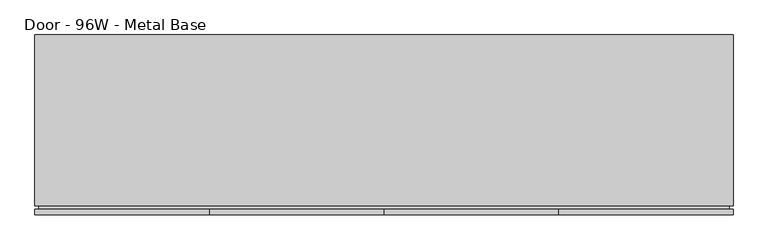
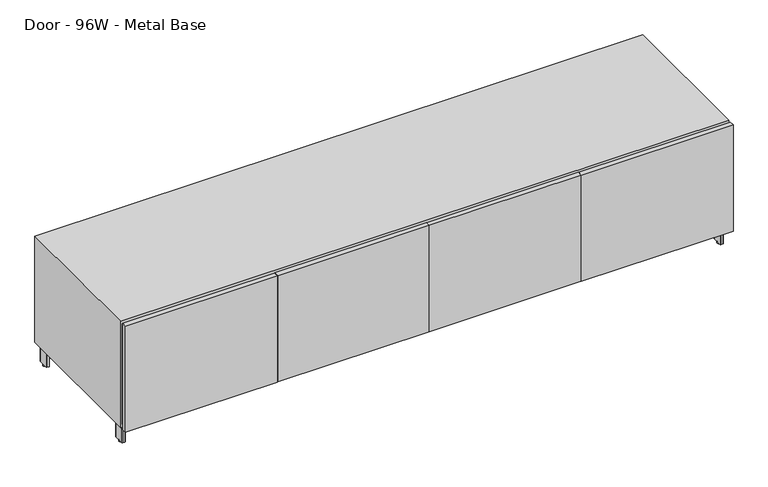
"""IFC4 building model written with IfcOpenShell, lengths in millimetres: furniture geometry, Steelcase Coalesse - Exponents - Storage - Credenza - 21H : Door - 96W - Metal Base."""

import ifcopenshell
import ifcopenshell.guid

model = None  # the IFC model being written
_history = None  # IfcOwnerHistory: only IFC2X3 demands one
_inside = {}  # id of a spatial element -> (the spatial element, [elements in it])
_under = {}  # id of a project, library or spatial element -> (it, [spatial elements below it])
_declared = {}  # id of a project -> (the project, [libraries it declares])
_typed = {}  # id of a type object -> (the type object, [elements of that type])
_made_of = {}  # id of a material, layer set ... -> (it, [elements and type objects made of it])


def new_model(schema):
    """Start an empty IFC model of exactly this schema.

    Asked for "IFC4X3", IfcOpenShell would pick the latest addendum, in which some entities
    have other attributes; the version numbers below select the first issue.
    IFC2X3 requires an IfcOwnerHistory on every rooted entity: one is made here for all.
    """
    global model, _history
    if schema == "IFC4X3":
        model = ifcopenshell.file(schema_version=(4, 3, 0, 0))
    else:
        model = ifcopenshell.file(schema=schema)
    _inside.clear()
    _under.clear()
    _declared.clear()
    _typed.clear()
    _made_of.clear()
    _history = None
    if model.schema == "IFC2X3":
        org = make("IfcOrganization", Name="unknown")
        user = make(
            "IfcPersonAndOrganization",
            ThePerson=make("IfcPerson", FamilyName="unknown"),
            TheOrganization=org,
        )
        app = make(
            "IfcApplication",
            ApplicationDeveloper=org,
            Version="unknown",
            ApplicationFullName="unknown",
            ApplicationIdentifier="unknown",
        )
        _history = make(
            "IfcOwnerHistory",
            OwningUser=user,
            OwningApplication=app,
            ChangeAction="ADDED",
            CreationDate=0,
        )
    return model


def make(cls, **values):
    """One entity of the class cls with the attributes given. An attribute that is None is left unset."""
    return model.create_entity(
        cls, **{name: value for name, value in values.items() if value is not None}
    )


def rooted(cls, **values):
    """An entity with a GlobalId (a new one), such as an element, a storey or a relation."""
    return make(cls, GlobalId=ifcopenshell.guid.new(), OwnerHistory=_history, **values)


def si_unit(unit_type, name, prefix=None):
    """IfcSIUnit, for example si_unit("LENGTHUNIT", "METRE", prefix="MILLI")."""
    return make("IfcSIUnit", UnitType=unit_type, Prefix=prefix, Name=name)


def assignment(units):
    """IfcUnitAssignment: the units of a project."""
    return None if units is None else make("IfcUnitAssignment", Units=units)


def point(xyz):
    """IfcCartesianPoint."""
    return None if xyz is None else make("IfcCartesianPoint", Coordinates=xyz)


def direction(xyz):
    """IfcDirection."""
    return None if xyz is None else make("IfcDirection", DirectionRatios=xyz)


def frame(location, z_axis=None, x_axis=None):
    """IfcAxis2Placement3D, a coordinate frame: its origin and axes. An axis left out is left unset."""
    return make(
        "IfcAxis2Placement3D",
        Location=point(location),
        Axis=direction(z_axis),
        RefDirection=direction(x_axis),
    )


def frame_2d(location, x_axis=None):
    """IfcAxis2Placement2D, a coordinate frame in the plane: its origin and x axis."""
    return make(
        "IfcAxis2Placement2D", Location=point(location), RefDirection=direction(x_axis)
    )


def origin():
    """The frame at (0, 0, 0) with its axes left unset."""
    return frame((0.0, 0.0, 0.0))


def origin_with_axes():
    """The frame at (0, 0, 0) with the z axis (0, 0, 1) and the x axis (1, 0, 0) written out."""
    return frame((0.0, 0.0, 0.0), z_axis=(0.0, 0.0, 1.0), x_axis=(1.0, 0.0, 0.0))


def place(relative_to, where):
    """IfcLocalPlacement: puts the frame where relative to a parent placement (None: the world)."""
    return make(
        "IfcLocalPlacement", PlacementRelTo=relative_to, RelativePlacement=where
    )


def context(
    kind, dimensions, precision=None, world=None, true_north=None, identifier=None
):
    """IfcGeometricRepresentationContext, for example the 3D "Model" context."""
    return make(
        "IfcGeometricRepresentationContext",
        ContextIdentifier=identifier,
        ContextType=kind,
        CoordinateSpaceDimension=dimensions,
        Precision=precision,
        WorldCoordinateSystem=world,
        TrueNorth=true_north,
    )


def project(units=None, contexts=None):
    """IfcProject with its units and contexts."""
    return rooted(
        "IfcProject",
        Name="project",
        RepresentationContexts=contexts,
        UnitsInContext=assignment(units),
    )


def spatial(cls, under=None, at=None, **own):
    """A site, building, storey or space (cls), placed at a placement, below another one or the project."""
    s = rooted(cls, ObjectPlacement=at, **own)
    if under is not None:
        _under.setdefault(under.id(), (under, []))[1].append(s)
    return s


def polyline(points):
    """IfcPolyline through the points."""
    return make("IfcPolyline", Points=[point(p) for p in points])


def circle_curve(where, radius):
    """IfcCircle in the frame where."""
    return make("IfcCircle", Position=where, Radius=radius)


def trimmed(basis, trim1, trim2, sense, master):
    """IfcTrimmedCurve: the piece of a basis curve between two trims."""
    return make(
        "IfcTrimmedCurve",
        BasisCurve=basis,
        Trim1=trim1,
        Trim2=trim2,
        SenseAgreement=sense,
        MasterRepresentation=master,
    )


def segment(curve, same_sense, transition):
    """IfcCompositeCurveSegment."""
    return make(
        "IfcCompositeCurveSegment",
        Transition=transition,
        SameSense=same_sense,
        ParentCurve=curve,
    )


def composite_curve(segments, self_intersect=None):
    """IfcCompositeCurve: segments joined end to end."""
    return make("IfcCompositeCurve", Segments=segments, SelfIntersect=self_intersect)


def outline(outer, holes=None, kind="AREA"):
    """IfcArbitraryClosedProfileDef: a profile drawn as a closed curve; with holes, ...WithVoids."""
    if holes is None:
        return make("IfcArbitraryClosedProfileDef", ProfileType=kind, OuterCurve=outer)
    return make(
        "IfcArbitraryProfileDefWithVoids",
        ProfileType=kind,
        OuterCurve=outer,
        InnerCurves=holes,
    )


def extrude(swept, where, along, depth):
    """IfcExtrudedAreaSolid: the profile swept, set in the frame where, extruded along a direction by depth."""
    return make(
        "IfcExtrudedAreaSolid",
        SweptArea=swept,
        Position=where,
        ExtrudedDirection=direction(along),
        Depth=depth,
    )


def faces_of(points, faces, orient=None, outer=None):
    """IfcFace entities. A face is a list of loops; a loop is a list of indices into points, from 0.

    orient and outer hold one flag for each loop. By default every Orientation is true, the
    first loop of a face is its IfcFaceOuterBound and the others are IfcFaceBound.
    """
    made = []
    for i, loops in enumerate(faces):
        bounds = []
        for j, loop in enumerate(loops):
            is_outer = j == 0 if outer is None else outer[i][j]
            bounds.append(
                make(
                    "IfcFaceOuterBound" if is_outer else "IfcFaceBound",
                    Bound=make("IfcPolyLoop", Polygon=[points[k] for k in loop]),
                    Orientation=True if orient is None else orient[i][j],
                )
            )
        made.append(make("IfcFace", Bounds=bounds))
    return made


def faceted_brep(points, faces, orient=None, outer=None, voids=None):
    """IfcFacetedBrep: a solid bounded by flat faces; with voids (closed shells), ...WithVoids."""
    shared = [point(p) for p in points]
    hull = make("IfcClosedShell", CfsFaces=faces_of(shared, faces, orient, outer))
    if voids is None:
        return make("IfcFacetedBrep", Outer=hull)
    return make(
        "IfcFacetedBrepWithVoids",
        Outer=hull,
        Voids=[
            make(cls, CfsFaces=faces_of(shared, fs, o, b)) for cls, fs, o, b in voids
        ],
    )


def shape(context_of_items, identifier, shape_type, items):
    """IfcShapeRepresentation: the items that make up one representation, for example the "Body"."""
    return make(
        "IfcShapeRepresentation",
        ContextOfItems=context_of_items,
        RepresentationIdentifier=identifier,
        RepresentationType=shape_type,
        Items=items,
    )


def source(mapping_origin, context_of_items, identifier, shape_type, items):
    """IfcRepresentationMap: a shape defined once, which mapped items show again and again."""
    return make(
        "IfcRepresentationMap",
        MappingOrigin=mapping_origin,
        MappedRepresentation=shape(context_of_items, identifier, shape_type, items),
    )


def transform(
    local_origin,
    x_axis=None,
    y_axis=None,
    z_axis=None,
    scale=None,
    scale2=None,
    scale3=None,
    uniform=True,
):
    """IfcCartesianTransformationOperator3D, or its non-uniform kind. x_axis, y_axis, z_axis: its Axis1, 2, 3."""
    if uniform:
        return make(
            "IfcCartesianTransformationOperator3D",
            Axis1=direction(x_axis),
            Axis2=direction(y_axis),
            LocalOrigin=point(local_origin),
            Scale=scale,
            Axis3=direction(z_axis),
        )
    return make(
        "IfcCartesianTransformationOperator3DnonUniform",
        Axis1=direction(x_axis),
        Axis2=direction(y_axis),
        LocalOrigin=point(local_origin),
        Scale=scale,
        Axis3=direction(z_axis),
        Scale2=scale2,
        Scale3=scale3,
    )


def mapped(mapping_source, mapping_target):
    """IfcMappedItem: shows the shape of a source again, moved by a transform."""
    return make(
        "IfcMappedItem", MappingSource=mapping_source, MappingTarget=mapping_target
    )


def made_of(thing, what):
    """Note that an element or type object is made of a material, layer set ...; save() writes the relation."""
    if what is not None:
        _made_of.setdefault(what.id(), (what, []))[1].append(thing)
    return thing


def element(
    cls,
    number,
    at=None,
    inside=None,
    cuts=None,
    type_object=None,
    material=None,
    context=None,
    identifier="Body",
    shape_type=None,
    held_by="IfcProductDefinitionShape",
    body=None,
    shapes=None,
    **own,
):
    """One element of the class cls, such as IfcWall. Its Tag is "e" and its number.

    at: its placement. inside: the storey or other place that contains it. cuts: it is an
    opening in that element (IfcRelVoidsElement). A single representation is given by context,
    identifier, shape_type and body (its items); several are given by shapes. held_by: the class
    of the entity that holds the representations. save() writes the other relations.
    """
    e = rooted(cls, Tag="e%d" % number, ObjectPlacement=at, **own)
    if body is not None:
        shapes = [shape(context, identifier, shape_type, body)]
    if shapes is not None:
        e.Representation = make(held_by, Representations=shapes)
    if inside is not None:
        _inside.setdefault(inside.id(), (inside, []))[1].append(e)
    if cuts is not None:
        rooted(
            "IfcRelVoidsElement", RelatingBuildingElement=cuts, RelatedOpeningElement=e
        )
    if type_object is not None:
        _typed.setdefault(type_object.id(), (type_object, []))[1].append(e)
    return made_of(e, material)


def aggregate(whole, parts):
    """IfcRelAggregates: a whole, such as a stair, and the parts it consists of."""
    return rooted("IfcRelAggregates", RelatingObject=whole, RelatedObjects=parts)


def save(model, path):
    """Write the relations noted so far, then the file.

    IfcRelAggregates (storeys below a building ...), IfcRelContainedInSpatialStructure (elements
    in a storey), IfcRelDefinesByType, IfcRelAssociatesMaterial and IfcRelDeclares: one each for
    every whole, place, type object, material and project.
    """
    for whole, parts in _under.values():
        aggregate(whole, parts)
    for where, things in _inside.values():
        rooted(
            "IfcRelContainedInSpatialStructure",
            RelatedElements=things,
            RelatingStructure=where,
        )
    for kind, things in _typed.values():
        rooted("IfcRelDefinesByType", RelatedObjects=things, RelatingType=kind)
    for what, things in _made_of.values():
        rooted("IfcRelAssociatesMaterial", RelatedObjects=things, RelatingMaterial=what)
    for by, libraries in _declared.values():
        rooted("IfcRelDeclares", RelatingContext=by, RelatedDefinitions=libraries)
    model.write(path)


def door_96w_metal_base_2c42405a(model_context):
    return source(origin(), model_context, "Body", "SolidModel", [
        faceted_brep([(6.35, 31.75, 520.7), (6.35, 31.75, 95.25), (6.35, 622.3, 95.25), (6.35, 622.3, 520.7), (2432.05, 622.3, 95.25), (2432.05, 622.3, 520.7), (2432.05, 31.75, 95.25), (2432.05, 31.75, 520.7), (0.0, 31.75, 82.55), (2438.4, 31.75, 82.55), (2438.4, 31.75, 533.4), (0.0, 31.75, 533.4), (2438.4, 628.65, 82.55), (2438.4, 628.65, 533.4), (0.0, 628.65, 82.55), (0.0, 628.65, 533.4)], [[[0, 1, 2, 3]], [[3, 2, 4, 5]], [[5, 4, 6, 7]], [[8, 9, 10, 11], [7, 6, 1, 0]], [[10, 9, 12, 13]], [[13, 12, 14, 15]], [[15, 14, 8, 11]], [[7, 0, 3, 5]], [[10, 13, 15, 11]], [[1, 6, 4, 2]], [[12, 9, 8, 14]]]),
        extrude(outline(composite_curve([segment(polyline([(2414.7506426, 615.95), (2423.922, 615.95)]), True, "CONTINUOUS"), segment(trimmed(circle_curve(frame_2d((2423.922, 614.172)), 1.778), [point((2423.922, 615.95))], [point((2425.7, 614.172))], False, "CARTESIAN"), True, "CONTINUOUS"), segment(polyline([(2425.7, 614.172), (2425.7, 572.9986)]), True, "CONTINUOUS"), segment(trimmed(circle_curve(frame_2d((2423.922, 572.9986)), 1.778), [point((2425.7, 572.9986))], [point((2423.922, 571.2206))], False, "CARTESIAN"), True, "CONTINUOUS"), segment(polyline([(2423.922, 571.2206), (2414.7948916, 571.2206)]), True, "CONTINUOUS"), segment(trimmed(circle_curve(frame_2d((2414.7948916, 573.0154916)), 1.7948916), [point((2414.7948916, 571.2206))], [point((2413.0, 573.0154916))], False, "CARTESIAN"), True, "CONTINUOUS"), segment(polyline([(2413.0, 573.0154916), (2413.0, 614.1993574)]), True, "CONTINUOUS"), segment(trimmed(circle_curve(frame_2d((2414.7506426, 614.1993574)), 1.7506426), [point((2413.0, 614.1993574))], [point((2414.7506426, 615.95))], False, "CARTESIAN"), True, "CONTINUOUS")], self_intersect=False)), frame((0.0, 0.0, 6.35), z_axis=(0.0, 0.0, 1.0), x_axis=(1.0, 0.0, 0.0)), (0.0, 0.0, 1.0), 73.4568),
        extrude(outline(composite_curve([segment(polyline([(2414.7506426, 88.9), (2423.922, 88.9)]), True, "CONTINUOUS"), segment(trimmed(circle_curve(frame_2d((2423.922, 87.122)), 1.778), [point((2423.922, 88.9))], [point((2425.7, 87.122))], False, "CARTESIAN"), True, "CONTINUOUS"), segment(polyline([(2425.7, 87.122), (2425.7, 45.9486)]), True, "CONTINUOUS"), segment(trimmed(circle_curve(frame_2d((2423.922, 45.9486)), 1.778), [point((2425.7, 45.9486))], [point((2423.922, 44.1706))], False, "CARTESIAN"), True, "CONTINUOUS"), segment(polyline([(2423.922, 44.1706), (2414.7948916, 44.1706)]), True, "CONTINUOUS"), segment(trimmed(circle_curve(frame_2d((2414.7948916, 45.9654916)), 1.7948916), [point((2414.7948916, 44.1706))], [point((2413.0, 45.9654916))], False, "CARTESIAN"), True, "CONTINUOUS"), segment(polyline([(2413.0, 45.9654916), (2413.0, 87.1493574)]), True, "CONTINUOUS"), segment(trimmed(circle_curve(frame_2d((2414.7506426, 87.1493574)), 1.7506426), [point((2413.0, 87.1493574))], [point((2414.7506426, 88.9))], False, "CARTESIAN"), True, "CONTINUOUS")], self_intersect=False)), frame((0.0, 0.0, 6.35), z_axis=(0.0, 0.0, 1.0), x_axis=(1.0, 0.0, 0.0)), (0.0, 0.0, 1.0), 73.4568),
        extrude(outline(composite_curve([segment(trimmed(circle_curve(frame_2d((2419.35, 593.5667033)), 6.35), [point((2419.35, 599.9167033))], [point((2419.35, 587.2167033))], False, "CARTESIAN"), True, "CONTINUOUS"), segment(trimmed(circle_curve(frame_2d((2419.35, 593.5667033)), 6.35), [point((2419.35, 587.2167033))], [point((2419.35, 599.9167033))], False, "CARTESIAN"), True, "CONTINUOUS")], self_intersect=False)), origin_with_axes(), (0.0, 0.0, 1.0), 6.35),
        extrude(outline(composite_curve([segment(trimmed(circle_curve(frame_2d((2419.35, 66.7867854)), 6.35), [point((2419.35, 73.1367854))], [point((2419.35, 60.4367854))], False, "CARTESIAN"), True, "CONTINUOUS"), segment(trimmed(circle_curve(frame_2d((2419.35, 66.7867854)), 6.35), [point((2419.35, 60.4367854))], [point((2419.35, 73.1367854))], False, "CARTESIAN"), True, "CONTINUOUS")], self_intersect=False)), origin_with_axes(), (0.0, 0.0, 1.0), 6.35),
        extrude(outline(polyline([(1879.6, 379.0696809), (1879.6, 277.4696809), (1778.0, 277.4696809), (1778.0, 379.0696809), (1879.6, 379.0696809)])), frame((0.0, 0.0, 79.8068), z_axis=(0.0, 0.0, 1.0), x_axis=(1.0, 0.0, 0.0)), (0.0, 0.0, 1.0), 2.7432),
        extrude(outline(polyline([(520.7, 2425.7), (520.7, 12.7), (95.25, 12.7), (95.25, 2425.7), (520.7, 2425.7)]), holes=[polyline([(514.35, 2419.35), (101.6, 2419.35), (101.6, 19.05), (514.35, 19.05), (514.35, 2419.35)])]), frame((0.0, 19.05, 0.0), z_axis=(0.0, 1.0, 0.0), x_axis=(0.0, 0.0, 1.0)), (0.0, 0.0, 1.0), 31.75),
        extrude(outline(composite_curve([segment(polyline([(1821.0256426, 349.25), (1836.547, 349.25)]), True, "CONTINUOUS"), segment(trimmed(circle_curve(frame_2d((1836.547, 347.472)), 1.778), [point((1836.547, 349.25))], [point((1838.325, 347.472))], False, "CARTESIAN"), True, "CONTINUOUS"), segment(polyline([(1838.325, 347.472), (1838.325, 312.928)]), True, "CONTINUOUS"), segment(trimmed(circle_curve(frame_2d((1836.547, 312.928)), 1.778), [point((1838.325, 312.928))], [point((1836.547, 311.15))], False, "CARTESIAN"), True, "CONTINUOUS"), segment(polyline([(1836.547, 311.15), (1821.0698916, 311.15)]), True, "CONTINUOUS"), segment(trimmed(circle_curve(frame_2d((1821.0698916, 312.9448916)), 1.7948916), [point((1821.0698916, 311.15))], [point((1819.275, 312.9448916))], False, "CARTESIAN"), True, "CONTINUOUS"), segment(polyline([(1819.275, 312.9448916), (1819.275, 347.4993574)]), True, "CONTINUOUS"), segment(trimmed(circle_curve(frame_2d((1821.0256426, 347.4993574)), 1.7506426), [point((1819.275, 347.4993574))], [point((1821.0256426, 349.25))], False, "CARTESIAN"), True, "CONTINUOUS")], self_intersect=False)), frame((0.0, 0.0, 6.35), z_axis=(0.0, 0.0, 1.0), x_axis=(1.0, 0.0, 0.0)), (0.0, 0.0, 1.0), 73.4568),
        extrude(outline(polyline([(1830.0800308, 345.280854), (2413.0, 598.591626), (2413.0, 577.8206777), (1843.1741031, 330.2), (2413.0, 82.5793223), (2413.0, 61.808374), (1830.377267, 314.9899805), (1836.8101738, 329.7934165), (1830.0800308, 345.280854)])), frame((0.0, 0.0, 34.925), z_axis=(0.0, 0.0, 1.0), x_axis=(1.0, 0.0, 0.0)), (0.0, 0.0, 1.0), 44.8818),
        extrude(outline(polyline([(2432.05, 520.7), (2330.45, 520.7), (2330.45, 622.3), (2432.05, 622.3), (2432.05, 520.7)])), frame((0.0, 0.0, 79.8068), z_axis=(0.0, 0.0, 1.0), x_axis=(1.0, 0.0, 0.0)), (0.0, 0.0, 1.0), 2.7432),
        extrude(outline(polyline([(2432.05, 139.7), (2432.05, 38.1), (2330.45, 38.1), (2330.45, 139.7), (2432.05, 139.7)])), frame((0.0, 0.0, 79.8068), z_axis=(0.0, 0.0, 1.0), x_axis=(1.0, 0.0, 0.0)), (0.0, 0.0, 1.0), 2.7432),
        extrude(outline(composite_curve([segment(trimmed(circle_curve(frame_2d((1828.6250692, 330.5590189)), 6.35), [point((1828.6250692, 336.9090189))], [point((1828.6250692, 324.2090189))], False, "CARTESIAN"), True, "CONTINUOUS"), segment(trimmed(circle_curve(frame_2d((1828.6250692, 330.5590189)), 6.35), [point((1828.6250692, 324.2090189))], [point((1828.6250692, 336.9090189))], False, "CARTESIAN"), True, "CONTINUOUS")], self_intersect=False)), origin_with_axes(), (0.0, 0.0, 1.0), 6.35),
        extrude(outline(composite_curve([segment(trimmed(circle_curve(frame_2d((1219.2, 330.5590189)), 6.35), [point((1219.2, 324.2090189))], [point((1219.2, 336.9090189))], False, "CARTESIAN"), True, "CONTINUOUS"), segment(trimmed(circle_curve(frame_2d((1219.2, 330.5590189)), 6.35), [point((1219.2, 336.9090189))], [point((1219.2, 324.2090189))], False, "CARTESIAN"), True, "CONTINUOUS")], self_intersect=False)), origin_with_axes(), (0.0, 0.0, 1.0), 6.35),
        extrude(outline(polyline([(1168.4, 379.0696809), (1270.0, 379.0696809), (1270.0, 277.4696809), (1168.4, 277.4696809), (1168.4, 379.0696809)])), frame((0.0, 0.0, 79.8068), z_axis=(0.0, 0.0, 1.0), x_axis=(1.0, 0.0, 0.0)), (0.0, 0.0, 1.0), 2.7432),
        extrude(outline(composite_curve([segment(trimmed(circle_curve(frame_2d((1226.9743574, 347.4993574)), 1.7506426), [point((1226.9743574, 349.25))], [point((1228.725, 347.4993574))], False, "CARTESIAN"), True, "CONTINUOUS"), segment(polyline([(1228.725, 347.4993574), (1228.725, 312.9448916)]), True, "CONTINUOUS"), segment(trimmed(circle_curve(frame_2d((1226.9301084, 312.9448916)), 1.7948916), [point((1228.725, 312.9448916))], [point((1226.9301084, 311.15))], False, "CARTESIAN"), True, "CONTINUOUS"), segment(polyline([(1226.9301084, 311.15), (1211.453, 311.15)]), True, "CONTINUOUS"), segment(trimmed(circle_curve(frame_2d((1211.453, 312.928)), 1.778), [point((1211.453, 311.15))], [point((1209.675, 312.928))], False, "CARTESIAN"), True, "CONTINUOUS"), segment(polyline([(1209.675, 312.928), (1209.675, 347.472)]), True, "CONTINUOUS"), segment(trimmed(circle_curve(frame_2d((1211.453, 347.472)), 1.778), [point((1209.675, 347.472))], [point((1211.453, 349.25))], False, "CARTESIAN"), True, "CONTINUOUS"), segment(polyline([(1211.453, 349.25), (1226.9743574, 349.25)]), True, "CONTINUOUS")], self_intersect=False)), frame((0.0, 0.0, 6.35), z_axis=(0.0, 0.0, 1.0), x_axis=(1.0, 0.0, 0.0)), (0.0, 0.0, 1.0), 73.4568),
        extrude(outline(polyline([(2438.4, 19.05), (2438.4, 0.0), (1829.435, 0.0), (1829.435, 19.05), (2438.4, 19.05)])), frame((0.0, 0.0, 82.55), z_axis=(0.0, 0.0, 1.0), x_axis=(1.0, 0.0, 0.0)), (0.0, 0.0, 1.0), 450.85),
        extrude(outline(polyline([(1827.8348, 19.05), (1827.8348, 0.0), (1220.0128, 0.0), (1220.0128, 19.05), (1827.8348, 19.05)])), frame((0.0, 0.0, 82.55), z_axis=(0.0, 0.0, 1.0), x_axis=(1.0, 0.0, 0.0)), (0.0, 0.0, 1.0), 450.85),
        extrude(outline(composite_curve([segment(trimmed(circle_curve(frame_2d((23.6493574, 614.1993574)), 1.7506426), [point((23.6493574, 615.95))], [point((25.4, 614.1993574))], False, "CARTESIAN"), True, "CONTINUOUS"), segment(polyline([(25.4, 614.1993574), (25.4, 573.0154916)]), True, "CONTINUOUS"), segment(trimmed(circle_curve(frame_2d((23.6051084, 573.0154916)), 1.7948916), [point((25.4, 573.0154916))], [point((23.6051084, 571.2206))], False, "CARTESIAN"), True, "CONTINUOUS"), segment(polyline([(23.6051084, 571.2206), (14.478, 571.2206)]), True, "CONTINUOUS"), segment(trimmed(circle_curve(frame_2d((14.478, 572.9986)), 1.778), [point((14.478, 571.2206))], [point((12.7, 572.9986))], False, "CARTESIAN"), True, "CONTINUOUS"), segment(polyline([(12.7, 572.9986), (12.7, 614.172)]), True, "CONTINUOUS"), segment(trimmed(circle_curve(frame_2d((14.478, 614.172)), 1.778), [point((12.7, 614.172))], [point((14.478, 615.95))], False, "CARTESIAN"), True, "CONTINUOUS"), segment(polyline([(14.478, 615.95), (23.6493574, 615.95)]), True, "CONTINUOUS")], self_intersect=False)), frame((0.0, 0.0, 6.35), z_axis=(0.0, 0.0, 1.0), x_axis=(1.0, 0.0, 0.0)), (0.0, 0.0, 1.0), 73.4568),
        extrude(outline(composite_curve([segment(trimmed(circle_curve(frame_2d((23.6493574, 87.1493574)), 1.7506426), [point((23.6493574, 88.9))], [point((25.4, 87.1493574))], False, "CARTESIAN"), True, "CONTINUOUS"), segment(polyline([(25.4, 87.1493574), (25.4, 45.9654916)]), True, "CONTINUOUS"), segment(trimmed(circle_curve(frame_2d((23.6051084, 45.9654916)), 1.7948916), [point((25.4, 45.9654916))], [point((23.6051084, 44.1706))], False, "CARTESIAN"), True, "CONTINUOUS"), segment(polyline([(23.6051084, 44.1706), (14.478, 44.1706)]), True, "CONTINUOUS"), segment(trimmed(circle_curve(frame_2d((14.478, 45.9486)), 1.778), [point((14.478, 44.1706))], [point((12.7, 45.9486))], False, "CARTESIAN"), True, "CONTINUOUS"), segment(polyline([(12.7, 45.9486), (12.7, 87.122)]), True, "CONTINUOUS"), segment(trimmed(circle_curve(frame_2d((14.478, 87.122)), 1.778), [point((12.7, 87.122))], [point((14.478, 88.9))], False, "CARTESIAN"), True, "CONTINUOUS"), segment(polyline([(14.478, 88.9), (23.6493574, 88.9)]), True, "CONTINUOUS")], self_intersect=False)), frame((0.0, 0.0, 6.35), z_axis=(0.0, 0.0, 1.0), x_axis=(1.0, 0.0, 0.0)), (0.0, 0.0, 1.0), 73.4568),
        extrude(outline(composite_curve([segment(trimmed(circle_curve(frame_2d((617.3743574, 347.4993574)), 1.7506426), [point((617.3743574, 349.25))], [point((619.125, 347.4993574))], False, "CARTESIAN"), True, "CONTINUOUS"), segment(polyline([(619.125, 347.4993574), (619.125, 312.9448916)]), True, "CONTINUOUS"), segment(trimmed(circle_curve(frame_2d((617.3301084, 312.9448916)), 1.7948916), [point((619.125, 312.9448916))], [point((617.3301084, 311.15))], False, "CARTESIAN"), True, "CONTINUOUS"), segment(polyline([(617.3301084, 311.15), (601.853, 311.15)]), True, "CONTINUOUS"), segment(trimmed(circle_curve(frame_2d((601.853, 312.928)), 1.778), [point((601.853, 311.15))], [point((600.075, 312.928))], False, "CARTESIAN"), True, "CONTINUOUS"), segment(polyline([(600.075, 312.928), (600.075, 347.472)]), True, "CONTINUOUS"), segment(trimmed(circle_curve(frame_2d((601.853, 347.472)), 1.778), [point((600.075, 347.472))], [point((601.853, 349.25))], False, "CARTESIAN"), True, "CONTINUOUS"), segment(polyline([(601.853, 349.25), (617.3743574, 349.25)]), True, "CONTINUOUS")], self_intersect=False)), frame((0.0, 0.0, 6.35), z_axis=(0.0, 0.0, 1.0), x_axis=(1.0, 0.0, 0.0)), (0.0, 0.0, 1.0), 73.4568),
        extrude(outline(polyline([(608.3199692, 345.280854), (601.5898262, 329.7934165), (608.022733, 314.9899805), (25.4, 61.808374), (25.4, 82.5793223), (595.2258969, 330.2), (25.4, 577.8206777), (25.4, 598.591626), (608.3199692, 345.280854)])), frame((0.0, 0.0, 34.925), z_axis=(0.0, 0.0, 1.0), x_axis=(1.0, 0.0, 0.0)), (0.0, 0.0, 1.0), 44.8818),
        extrude(outline(polyline([(1218.4126, 19.05), (1218.4126, 0.0), (610.5652, 0.0), (610.5652, 19.05), (1218.4126, 19.05)])), frame((0.0, 0.0, 82.55), z_axis=(0.0, 0.0, 1.0), x_axis=(1.0, 0.0, 0.0)), (0.0, 0.0, 1.0), 450.85),
        extrude(outline(polyline([(6.35, 520.7), (6.35, 622.3), (107.95, 622.3), (107.95, 520.7), (6.35, 520.7)])), frame((0.0, 0.0, 79.8068), z_axis=(0.0, 0.0, 1.0), x_axis=(1.0, 0.0, 0.0)), (0.0, 0.0, 1.0), 2.7432),
        extrude(outline(polyline([(6.35, 139.7), (107.95, 139.7), (107.95, 38.1), (6.35, 38.1), (6.35, 139.7)])), frame((0.0, 0.0, 79.8068), z_axis=(0.0, 0.0, 1.0), x_axis=(1.0, 0.0, 0.0)), (0.0, 0.0, 1.0), 2.7432),
        extrude(outline(polyline([(558.8, 379.0696809), (660.4, 379.0696809), (660.4, 277.4696809), (558.8, 277.4696809), (558.8, 379.0696809)])), frame((0.0, 0.0, 79.8068), z_axis=(0.0, 0.0, 1.0), x_axis=(1.0, 0.0, 0.0)), (0.0, 0.0, 1.0), 2.7432),
        extrude(outline(polyline([(608.965, 19.05), (608.965, 0.0), (0.0, 0.0), (0.0, 19.05), (608.965, 19.05)])), frame((0.0, 0.0, 82.55), z_axis=(0.0, 0.0, 1.0), x_axis=(1.0, 0.0, 0.0)), (0.0, 0.0, 1.0), 450.85),
        extrude(outline(composite_curve([segment(trimmed(circle_curve(frame_2d((19.05, 593.5667033)), 6.35), [point((12.7, 593.5667033))], [point((25.4, 593.5667033))], False, "CARTESIAN"), True, "CONTINUOUS"), segment(trimmed(circle_curve(frame_2d((19.05, 593.5667033)), 6.35), [point((25.4, 593.5667033))], [point((12.7, 593.5667033))], False, "CARTESIAN"), True, "CONTINUOUS")], self_intersect=False)), origin_with_axes(), (0.0, 0.0, 1.0), 6.35),
        extrude(outline(composite_curve([segment(trimmed(circle_curve(frame_2d((19.05, 66.7867854)), 6.35), [point((12.7, 66.7867854))], [point((25.4, 66.7867854))], False, "CARTESIAN"), True, "CONTINUOUS"), segment(trimmed(circle_curve(frame_2d((19.05, 66.7867854)), 6.35), [point((25.4, 66.7867854))], [point((12.7, 66.7867854))], False, "CARTESIAN"), True, "CONTINUOUS")], self_intersect=False)), origin_with_axes(), (0.0, 0.0, 1.0), 6.35),
        extrude(outline(composite_curve([segment(trimmed(circle_curve(frame_2d((609.7749308, 330.5590189)), 6.35), [point((603.4249308, 330.5590189))], [point((616.1249308, 330.5590189))], False, "CARTESIAN"), True, "CONTINUOUS"), segment(trimmed(circle_curve(frame_2d((609.7749308, 330.5590189)), 6.35), [point((616.1249308, 330.5590189))], [point((603.4249308, 330.5590189))], False, "CARTESIAN"), True, "CONTINUOUS")], self_intersect=False)), origin_with_axes(), (0.0, 0.0, 1.0), 6.35),
        extrude(outline(polyline([(0.0, -19.05), (0.0, 0.0), (31.75, 0.0), (31.75, -19.05), (0.0, -19.05)])), frame((1828.8, 19.05, 101.6), z_axis=(2.934541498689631e-12, 0.0, 1.0), x_axis=(0.0, 1.0, 0.0)), (0.0, 0.0, 1.0), 412.75),
        extrude(outline(polyline([(0.0, -19.05), (0.0, 0.0), (31.75, 0.0), (31.75, -19.05), (0.0, -19.05)])), frame((1209.675, 19.05, 101.6), z_axis=(3.1477043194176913e-12, 0.0, 1.0), x_axis=(0.0, 1.0, 0.0)), (0.0, 0.0, 1.0), 412.75),
        extrude(outline(polyline([(0.0, -19.05), (0.0, 0.0), (31.75, 0.0), (31.75, -19.05), (0.0, -19.05)])), frame((590.55, 19.05, 101.6), z_axis=(3.3608671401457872e-12, 0.0, 1.0), x_axis=(0.0, 1.0, 0.0)), (0.0, 0.0, 1.0), 412.75),
        extrude(outline(polyline([(1209.675, 609.6), (1228.725, 609.6), (1228.725, 50.8), (1209.675, 50.8), (1209.675, 609.6)])), frame((0.0, 0.0, 95.25), z_axis=(0.0, 0.0, 1.0), x_axis=(1.0, 0.0, 0.0)), (0.0, 0.0, 1.0), 425.45),
        extrude(outline(polyline([(1828.8, 609.6), (1847.85, 609.6), (1847.85, 50.8), (1828.8, 50.8), (1828.8, 609.6)])), frame((0.0, 0.0, 95.25), z_axis=(0.0, 0.0, 1.0), x_axis=(1.0, 0.0, 0.0)), (0.0, 0.0, 1.0), 425.45),
        extrude(outline(polyline([(1828.8, 50.8), (1228.725, 50.8), (1228.725, 609.6), (1828.8, 609.6), (1828.8, 50.8)])), frame((0.0, 0.0, 295.275), z_axis=(0.0, 0.0, 1.0), x_axis=(1.0, 0.0, 0.0)), (0.0, 0.0, 1.0), 19.05),
        extrude(outline(polyline([(1209.675, 50.8), (609.6, 50.8), (609.6, 609.6), (1209.675, 609.6), (1209.675, 50.8)])), frame((0.0, 0.0, 295.275), z_axis=(0.0, 0.0, 1.0), x_axis=(1.0, 0.0, 0.0)), (0.0, 0.0, 1.0), 19.05),
        extrude(outline(polyline([(590.55, 609.6), (609.6, 609.6), (609.6, 50.8), (590.55, 50.8), (590.55, 609.6)])), frame((0.0, 0.0, 95.25), z_axis=(0.0, 0.0, 1.0), x_axis=(1.0, 0.0, 0.0)), (0.0, 0.0, 1.0), 425.45),
    ])


if __name__ == "__main__":
    model = new_model("IFC4")
    model_context = context("Model", 3, world=origin())
    ifc_project = project(units=[si_unit("LENGTHUNIT", "METRE", prefix="MILLI")], contexts=[model_context])
    site = spatial("IfcSite", under=ifc_project)
    building = spatial("IfcBuilding", under=site)
    placement = place(None, origin())
    door_96w_metal_base_shape = door_96w_metal_base_2c42405a(model_context)
    element("IfcFurniture", 1, ObjectType="Steelcase Coalesse - Exponents - Storage - Credenza - 21H : Door - 96W - Metal Base", at=placement, inside=building, context=model_context, shape_type="MappedRepresentation", body=[
        mapped(door_96w_metal_base_shape, transform((0.0, 0.0, 0.0), x_axis=(1.0, 0.0, 0.0), y_axis=(0.0, 1.0, 0.0), z_axis=(0.0, 0.0, 1.0))),
    ])
    save(model, "model.ifc")
